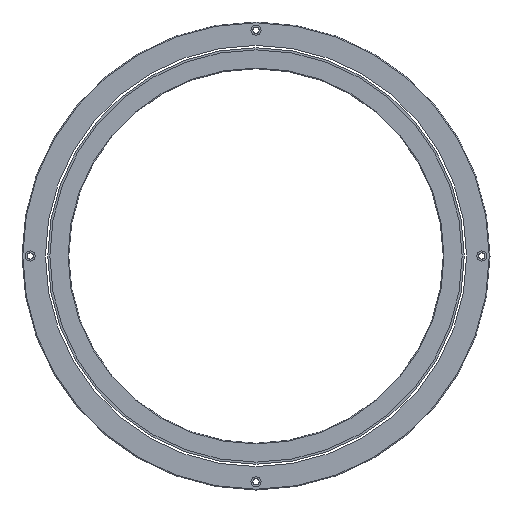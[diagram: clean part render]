
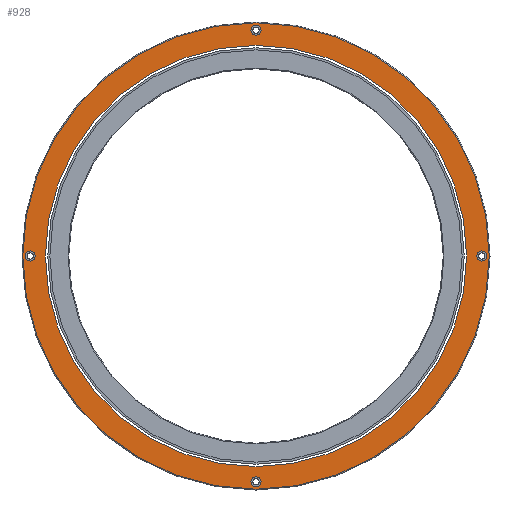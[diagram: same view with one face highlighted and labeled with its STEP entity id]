
A CAD part, front view. The second image highlights one B-rep face of the part: STEP entity #928.
In plain terms, the highlighted planar face has unit normal (0, -1, 0).
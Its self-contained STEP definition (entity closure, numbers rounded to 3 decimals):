
#43=CARTESIAN_POINT('',(0.,0.,0.));
#44=DIRECTION('',(0.,-1.,0.));
#45=DIRECTION('',(-1.,0.,0.));
#46=AXIS2_PLACEMENT_3D('',#43,#44,#45);
#48=CARTESIAN_POINT('',(0.,0.,0.));
#49=DIRECTION('',(0.,1.,0.));
#50=DIRECTION('',(-1.,0.,0.));
#51=AXIS2_PLACEMENT_3D('',#48,#49,#50);
#53=CARTESIAN_POINT('',(-144.75,0.,0.));
#54=DIRECTION('',(0.,1.,0.));
#55=DIRECTION('',(1.,0.,0.));
#56=AXIS2_PLACEMENT_3D('',#53,#54,#55);
#58=CARTESIAN_POINT('',(-144.75,0.,0.));
#59=DIRECTION('',(0.,1.,0.));
#60=DIRECTION('',(-1.,0.,0.));
#61=AXIS2_PLACEMENT_3D('',#58,#59,#60);
#63=CARTESIAN_POINT('',(0.,0.,144.75));
#64=DIRECTION('',(0.,1.,0.));
#65=DIRECTION('',(0.,0.,-1.));
#66=AXIS2_PLACEMENT_3D('',#63,#64,#65);
#68=CARTESIAN_POINT('',(0.,0.,144.75));
#69=DIRECTION('',(0.,1.,0.));
#70=DIRECTION('',(0.,0.,1.));
#71=AXIS2_PLACEMENT_3D('',#68,#69,#70);
#73=CARTESIAN_POINT('',(144.75,0.,0.));
#74=DIRECTION('',(0.,1.,0.));
#75=DIRECTION('',(-1.,0.,0.));
#76=AXIS2_PLACEMENT_3D('',#73,#74,#75);
#78=CARTESIAN_POINT('',(144.75,0.,0.));
#79=DIRECTION('',(0.,1.,0.));
#80=DIRECTION('',(1.,0.,0.));
#81=AXIS2_PLACEMENT_3D('',#78,#79,#80);
#83=CARTESIAN_POINT('',(0.,0.,-144.75));
#84=DIRECTION('',(0.,1.,0.));
#85=DIRECTION('',(0.,0.,1.));
#86=AXIS2_PLACEMENT_3D('',#83,#84,#85);
#88=CARTESIAN_POINT('',(0.,0.,-144.75));
#89=DIRECTION('',(0.,1.,0.));
#90=DIRECTION('',(0.,0.,-1.));
#91=AXIS2_PLACEMENT_3D('',#88,#89,#90);
#93=CARTESIAN_POINT('',(0.,0.,0.));
#94=DIRECTION('',(0.,1.,0.));
#95=DIRECTION('',(-1.,0.,0.));
#96=AXIS2_PLACEMENT_3D('',#93,#94,#95);
#98=CARTESIAN_POINT('',(0.,0.,0.));
#99=DIRECTION('',(0.,1.,0.));
#100=DIRECTION('',(1.,0.,0.));
#101=AXIS2_PLACEMENT_3D('',#98,#99,#100);
#751=CARTESIAN_POINT('',(-141.5,0.,0.));
#752=VERTEX_POINT('',#751);
#753=CARTESIAN_POINT('',(-148.,0.,0.));
#754=VERTEX_POINT('',#753);
#763=CARTESIAN_POINT('',(0.,0.,141.5));
#764=VERTEX_POINT('',#763);
#765=CARTESIAN_POINT('',(0.,0.,148.));
#766=VERTEX_POINT('',#765);
#775=CARTESIAN_POINT('',(141.5,0.,0.));
#776=VERTEX_POINT('',#775);
#777=CARTESIAN_POINT('',(148.,0.,0.));
#778=VERTEX_POINT('',#777);
#787=CARTESIAN_POINT('',(0.,0.,-141.5));
#788=VERTEX_POINT('',#787);
#789=CARTESIAN_POINT('',(0.,0.,-148.));
#790=VERTEX_POINT('',#789);
#808=CARTESIAN_POINT('',(-135.,0.,0.));
#810=VERTEX_POINT('',#808);
#812=CARTESIAN_POINT('',(135.,0.,0.));
#814=VERTEX_POINT('',#812);
#827=CARTESIAN_POINT('',(-149.5,0.,0.));
#828=CARTESIAN_POINT('',(149.5,0.,0.));
#829=VERTEX_POINT('',#827);
#830=VERTEX_POINT('',#828);
#889=CARTESIAN_POINT('',(0.,0.,0.));
#890=DIRECTION('',(0.,1.,0.));
#891=DIRECTION('',(1.,0.,0.));
#892=AXIS2_PLACEMENT_3D('',#889,#890,#891);
#893=PLANE('',#892);
#895=ORIENTED_EDGE('',*,*,#894,.T.);
#897=ORIENTED_EDGE('',*,*,#896,.T.);
#898=EDGE_LOOP('',(#895,#897));
#899=FACE_OUTER_BOUND('',#898,.F.);
#900=ORIENTED_EDGE('',*,*,#868,.F.);
#901=ORIENTED_EDGE('',*,*,#884,.F.);
#902=EDGE_LOOP('',(#900,#901));
#903=FACE_BOUND('',#902,.F.);
#905=ORIENTED_EDGE('',*,*,#904,.F.);
#907=ORIENTED_EDGE('',*,*,#906,.F.);
#908=EDGE_LOOP('',(#905,#907));
#909=FACE_BOUND('',#908,.F.);
#911=ORIENTED_EDGE('',*,*,#910,.F.);
#913=ORIENTED_EDGE('',*,*,#912,.F.);
#914=EDGE_LOOP('',(#911,#913));
#915=FACE_BOUND('',#914,.F.);
#917=ORIENTED_EDGE('',*,*,#916,.F.);
#919=ORIENTED_EDGE('',*,*,#918,.F.);
#920=EDGE_LOOP('',(#917,#919));
#921=FACE_BOUND('',#920,.F.);
#923=ORIENTED_EDGE('',*,*,#922,.T.);
#925=ORIENTED_EDGE('',*,*,#924,.F.);
#926=EDGE_LOOP('',(#923,#925));
#927=FACE_BOUND('',#926,.F.);
#47=CIRCLE('',#46,135.);
#52=CIRCLE('',#51,135.);
#57=CIRCLE('',#56,3.25);
#62=CIRCLE('',#61,3.25);
#67=CIRCLE('',#66,3.25);
#72=CIRCLE('',#71,3.25);
#77=CIRCLE('',#76,3.25);
#82=CIRCLE('',#81,3.25);
#87=CIRCLE('',#86,3.25);
#92=CIRCLE('',#91,3.25);
#97=CIRCLE('',#96,149.5);
#102=CIRCLE('',#101,149.5);
#868=EDGE_CURVE('',#752,#754,#57,.T.);
#884=EDGE_CURVE('',#754,#752,#62,.T.);
#894=EDGE_CURVE('',#829,#830,#97,.T.);
#896=EDGE_CURVE('',#830,#829,#102,.T.);
#904=EDGE_CURVE('',#764,#766,#67,.T.);
#906=EDGE_CURVE('',#766,#764,#72,.T.);
#910=EDGE_CURVE('',#776,#778,#77,.T.);
#912=EDGE_CURVE('',#778,#776,#82,.T.);
#916=EDGE_CURVE('',#788,#790,#87,.T.);
#918=EDGE_CURVE('',#790,#788,#92,.T.);
#922=EDGE_CURVE('',#810,#814,#47,.T.);
#924=EDGE_CURVE('',#810,#814,#52,.T.);
#928=ADVANCED_FACE('',(#899,#903,#909,#915,#921,#927),#893,.F.);
